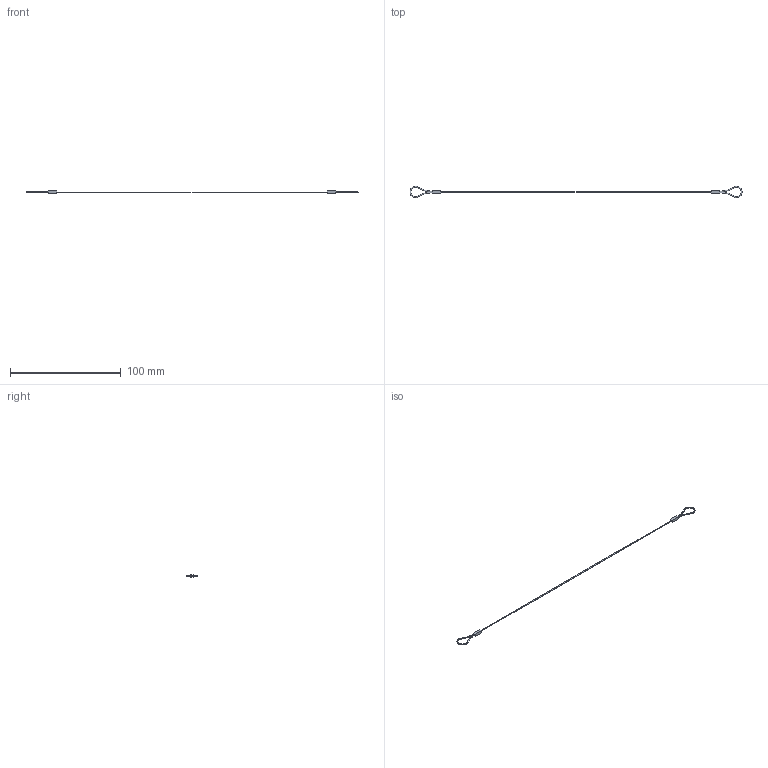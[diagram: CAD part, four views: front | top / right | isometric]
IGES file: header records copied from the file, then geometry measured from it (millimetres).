
Start section:  PTC IGES file: EB-935_8.igs
Global section: file name: EB-935_8.igs; native system: Creo Parametric by Parametric Technology Corporation; preprocessor: 2012360; author: xeon_1; organization: Unknown; date: 20130808.093144; units: millimetre
Bounding box: 299.96 x 10.11 x 2.5 mm (x, y, z)
Volume: 273.2 mm3; surface area: 1037.4 mm2
Topology: 1 solids, 1 shells, 26 faces, 62 edges, 36 vertices
Faces by surface type: revolution 14, bspline 12
